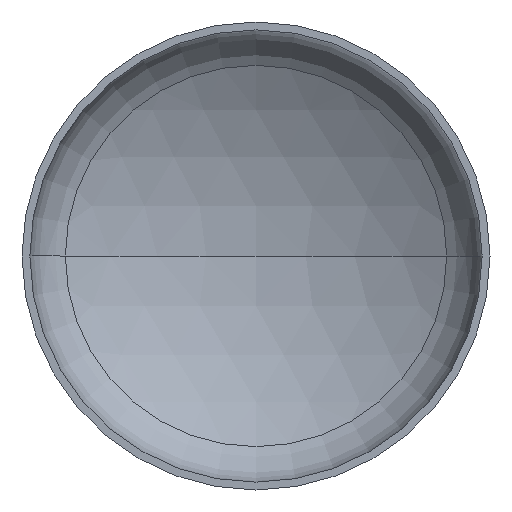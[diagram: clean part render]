
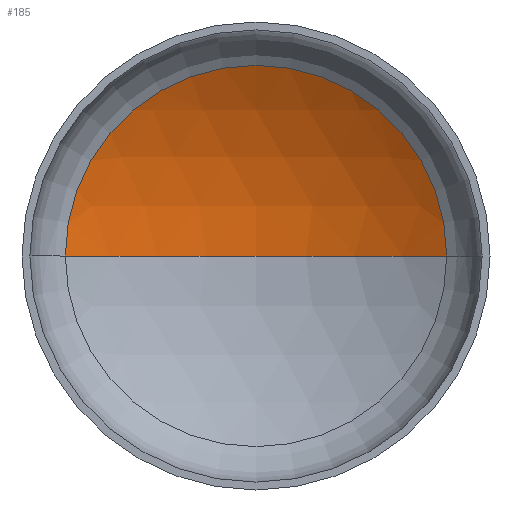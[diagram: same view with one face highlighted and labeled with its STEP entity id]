
A CAD part, front view. The second image highlights one B-rep face of the part: STEP entity #185.
In plain terms, the highlighted spherical face has radius 284 mm.
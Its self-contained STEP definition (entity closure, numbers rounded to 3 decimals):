
#15 = CIRCLE ( 'NONE', #205, 144.852 ) ;
#16 = EDGE_LOOP ( 'NONE', ( #77, #80, #65 ) ) ;
#34 = VERTEX_POINT ( 'NONE', #238 ) ;
#36 = VERTEX_POINT ( 'NONE', #239 ) ;
#56 = AXIS2_PLACEMENT_3D ( 'NONE', #312, #310, #298 ) ;
#65 = ORIENTED_EDGE ( 'NONE', *, *, #376, .T. ) ;
#77 = ORIENTED_EDGE ( 'NONE', *, *, #165, .F. ) ;
#80 = ORIENTED_EDGE ( 'NONE', *, *, #139, .T. ) ;
#93 = VERTEX_POINT ( 'NONE', #316 ) ;
#125 = DIRECTION ( 'NONE',  ( 1., 0., 0. ) ) ;
#139 = EDGE_CURVE ( 'NONE', #34, #93, #215, .T. ) ;
#145 = CIRCLE ( 'NONE', #173, 284. ) ;
#157 = DIRECTION ( 'NONE',  ( 0., 0., -1. ) ) ;
#165 = EDGE_CURVE ( 'NONE', #34, #36, #145, .T. ) ;
#169 = DIRECTION ( 'NONE',  ( -1., 0., 0. ) ) ;
#173 = AXIS2_PLACEMENT_3D ( 'NONE', #305, #300, #203 ) ;
#174 = CARTESIAN_POINT ( 'NONE',  ( 0., -176.974, 0. ) ) ;
#185 = ADVANCED_FACE ( 'NONE', ( #353 ), #274, .F. ) ;
#191 = CARTESIAN_POINT ( 'NONE',  ( 0., 67.308, 0. ) ) ;
#203 = DIRECTION ( 'NONE',  ( 1., 0., 0. ) ) ;
#205 = AXIS2_PLACEMENT_3D ( 'NONE', #191, #378, #125 ) ;
#215 = CIRCLE ( 'NONE', #56, 284. ) ;
#238 = CARTESIAN_POINT ( 'NONE',  ( 0., 107.026, 0. ) ) ;
#239 = CARTESIAN_POINT ( 'NONE',  ( -144.852, 67.308, 0. ) ) ;
#255 = AXIS2_PLACEMENT_3D ( 'NONE', #174, #157, #169 ) ;
#274 = SPHERICAL_SURFACE ( 'NONE', #255, 284. ) ;
#298 = DIRECTION ( 'NONE',  ( -1., 0., 0. ) ) ;
#300 = DIRECTION ( 'NONE',  ( 0., 0., 1. ) ) ;
#305 = CARTESIAN_POINT ( 'NONE',  ( 0., -176.974, 0. ) ) ;
#310 = DIRECTION ( 'NONE',  ( 0., 0., -1. ) ) ;
#312 = CARTESIAN_POINT ( 'NONE',  ( 0., -176.974, 0. ) ) ;
#316 = CARTESIAN_POINT ( 'NONE',  ( 144.852, 67.308, 0. ) ) ;
#353 = FACE_OUTER_BOUND ( 'NONE', #16, .T. ) ;
#376 = EDGE_CURVE ( 'NONE', #93, #36, #15, .T. ) ;
#378 = DIRECTION ( 'NONE',  ( 0., -1., 0. ) ) ;
